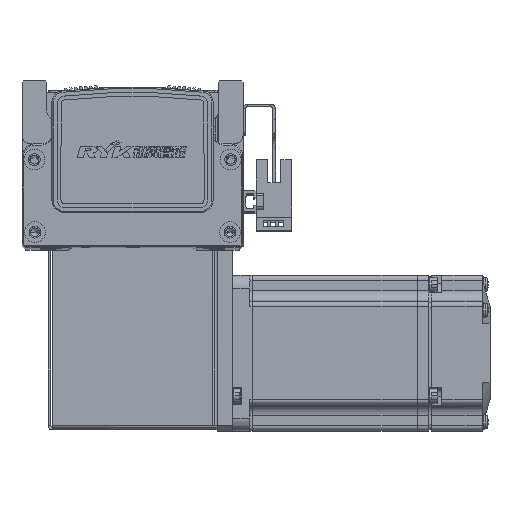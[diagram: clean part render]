
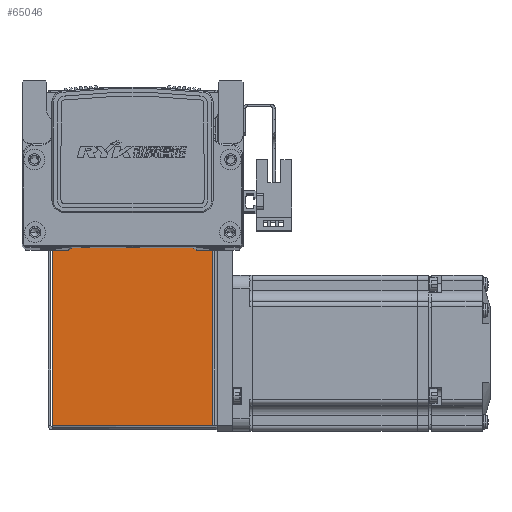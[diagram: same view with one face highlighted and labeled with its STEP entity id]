
A CAD part, top view. The second image highlights one B-rep face of the part: STEP entity #65046.
In plain terms, the highlighted planar face has unit normal (0, 0, 1).
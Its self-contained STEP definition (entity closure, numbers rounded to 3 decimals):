
#4288 = FACE_OUTER_BOUND ( 'NONE', #16435, .T. ) ;
#7327 = VERTEX_POINT ( 'NONE', #27015 ) ;
#7427 = VERTEX_POINT ( 'NONE', #27069 ) ;
#7526 = VERTEX_POINT ( 'NONE', #27179 ) ;
#7540 = VERTEX_POINT ( 'NONE', #27145 ) ;
#9709 = PLANE ( 'NONE',  #37591 ) ;
#9712 = CARTESIAN_POINT ( 'NONE',  ( 0., 0., 35. ) ) ;
#9753 = DIRECTION ( 'NONE',  ( 0., 0., -1. ) ) ;
#9760 = DIRECTION ( 'NONE',  ( -1., 0., 0. ) ) ;
#15447 = ORIENTED_EDGE ( 'NONE', *, *, #20556, .F. ) ;
#15472 = ORIENTED_EDGE ( 'NONE', *, *, #20517, .T. ) ;
#15487 = ORIENTED_EDGE ( 'NONE', *, *, #20544, .T. ) ;
#15488 = ORIENTED_EDGE ( 'NONE', *, *, #20494, .F. ) ;
#16435 = EDGE_LOOP ( 'NONE', ( #15487, #15472, #15447, #15488 ) ) ;
#20494 = EDGE_CURVE ( 'NONE', #7327, #7526, #37857, .T. ) ;
#20517 = EDGE_CURVE ( 'NONE', #7540, #7427, #37968, .T. ) ;
#20544 = EDGE_CURVE ( 'NONE', #7327, #7540, #37993, .T. ) ;
#20556 = EDGE_CURVE ( 'NONE', #7526, #7427, #38032, .T. ) ;
#23028 = CARTESIAN_POINT ( 'NONE',  ( -32.5, 0.737, 35. ) ) ;
#23030 = DIRECTION ( 'NONE',  ( -1., 0., 0. ) ) ;
#23118 = DIRECTION ( 'NONE',  ( -1., 0., 0. ) ) ;
#23127 = CARTESIAN_POINT ( 'NONE',  ( 0., 72.5, 35. ) ) ;
#23159 = CARTESIAN_POINT ( 'NONE',  ( 30.763, 0.737, 35. ) ) ;
#23176 = DIRECTION ( 'NONE',  ( 0., 1., 0. ) ) ;
#23216 = CARTESIAN_POINT ( 'NONE',  ( -30.793, 0., 35. ) ) ;
#23228 = DIRECTION ( 'NONE',  ( 0., 1., 0. ) ) ;
#27015 = CARTESIAN_POINT ( 'NONE',  ( 30.763, 0.737, 35. ) ) ;
#27069 = CARTESIAN_POINT ( 'NONE',  ( -30.793, 72.5, 35. ) ) ;
#27145 = CARTESIAN_POINT ( 'NONE',  ( 30.763, 72.5, 35. ) ) ;
#27179 = CARTESIAN_POINT ( 'NONE',  ( -30.793, 0.737, 35. ) ) ;
#37591 = AXIS2_PLACEMENT_3D ( 'NONE', #9712, #9753, #9760 ) ;
#37857 = LINE ( 'NONE', #23028, #37870 ) ;
#37870 = VECTOR ( 'NONE', #23030, 1000. ) ;
#37937 = VECTOR ( 'NONE', #23118, 1000. ) ;
#37968 = LINE ( 'NONE', #23127, #37937 ) ;
#37985 = VECTOR ( 'NONE', #23176, 1000. ) ;
#37993 = LINE ( 'NONE', #23159, #37985 ) ;
#38017 = VECTOR ( 'NONE', #23228, 1000. ) ;
#38032 = LINE ( 'NONE', #23216, #38017 ) ;
#65046 = ADVANCED_FACE ( 'NONE', ( #4288 ), #9709, .F. ) ;
